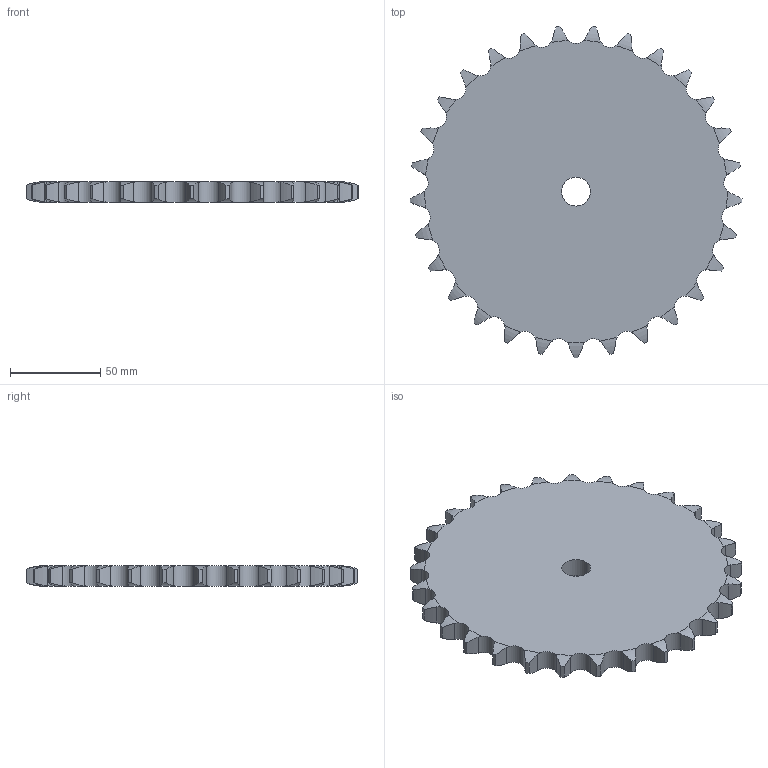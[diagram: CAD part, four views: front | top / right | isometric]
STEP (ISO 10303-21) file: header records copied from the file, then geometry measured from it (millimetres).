
FILE_DESCRIPTION((''),'2;1');
FILE_NAME('500-401-0029_PRT','2021-02-12T',('Brieden'),('Brieden'),'PRO/ENGINEER BY PARAMETRIC TECHNOLOGY CORPORATION, 2010160','PRO/ENGINEER BY PARAMETRIC TECHNOLOGY CORPORATION, 2010160','');
FILE_SCHEMA(('AUTOMOTIVE_DESIGN { 1 0 10303 214 1 1 1 1 }'));
Length unit declared in the file: millimetre
Products named in the file (1): 500-401-0029_PRT
Bounding box: 183.93 x 183.66 x 11.1 mm (x, y, z)
Volume: 253417.4 mm3; surface area: 55221.2 mm2
Topology: 1 solids, 1 shells, 178 faces, 528 edges, 352 vertices
Faces by surface type: cylinder 118, torus 58, plane 2
Entity records: 8732 total; most frequent: CARTESIAN_POINT 2589, ORIENTED_EDGE 1056, DIRECTION 830, PRESENTATION_STYLE_ASSIGNMENT 529, STYLED_ITEM 529, CURVE_STYLE 528, EDGE_CURVE 528, AXIS2_PLACEMENT_3D 356
